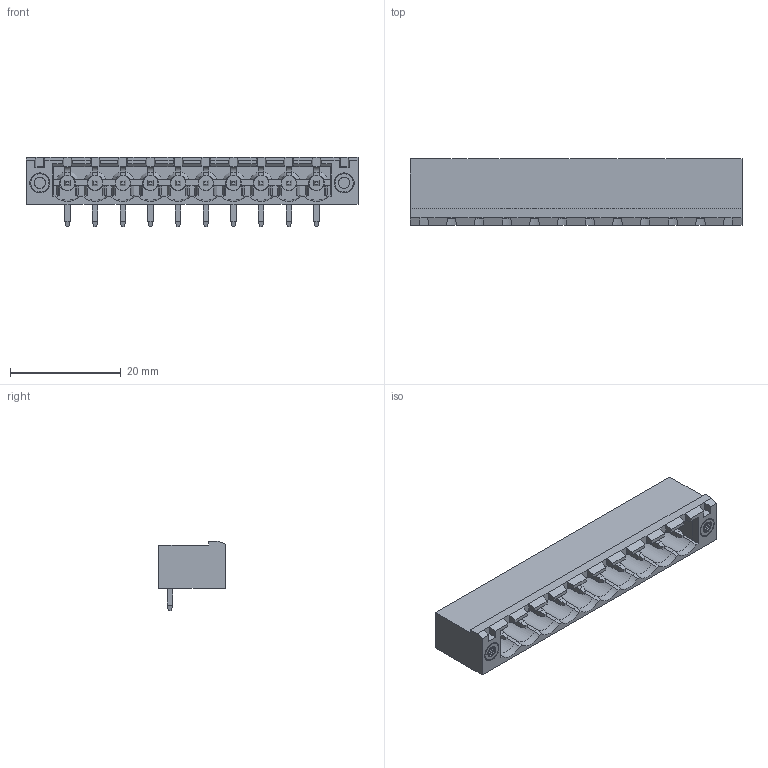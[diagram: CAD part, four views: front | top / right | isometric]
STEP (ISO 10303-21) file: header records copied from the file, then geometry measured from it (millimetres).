
FILE_DESCRIPTION(('Open CASCADE Model'),'2;1');
FILE_NAME('Open CASCADE Shape Model','2022-10-26T11:42:28',('Author'),( 'Open CASCADE'),'Open CASCADE STEP processor 6.5','Open CASCADE 6.5' ,'Unknown');
FILE_SCHEMA(('AUTOMOTIVE_DESIGN { 1 0 10303 214 1 1 1 1 }'));
Length unit declared in the file: millimetre
Products named in the file (1036): CADSOFTTOOLS 4; CADSOFTTOOLS 4.1; CADSOFTTOOLS 4.2; CADSOFTTOOLS 4.3; CADSOFTTOOLS 4.4; CADSOFTTOOLS 4.5; CADSOFTTOOLS 4.6; CADSOFTTOOLS 4.7; CADSOFTTOOLS 4.8; CADSOFTTOOLS 4.9; CADSOFTTOOLS 4.10; CADSOFTTOOLS 4.11; CADSOFTTOOLS 4.12; CADSOFTTOOLS 4.13; CADSOFTTOOLS 4.14; CADSOFTTOOLS 4.15; CADSOFTTOOLS 4.16; CADSOFTTOOLS 4.17; CADSOFTTOOLS 4.18; CADSOFTTOOLS 4.19; CADSOFTTOOLS 4.20; CADSOFTTOOLS 4.21; CADSOFTTOOLS 4.22; CADSOFTTOOLS 4.23; CADSOFTTOOLS 4.24; CADSOFTTOOLS 4.25; CADSOFTTOOLS 4.26; CADSOFTTOOLS 4.27; CADSOFTTOOLS 4.28; CADSOFTTOOLS 4.29; CADSOFTTOOLS 4.30; CADSOFTTOOLS 4.31; CADSOFTTOOLS 4.32; CADSOFTTOOLS 4.33; CADSOFTTOOLS 4.34; CADSOFTTOOLS 4.35; CADSOFTTOOLS 4.36; CADSOFTTOOLS 4.37; CADSOFTTOOLS 4.38; CADSOFTTOOLS 4.39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
Assembly tree (1035 placements, depth 2):
  CADSOFTTOOLS 4
    CADSOFTTOOLS 4.1
    CADSOFTTOOLS 4.2
    CADSOFTTOOLS 4.3
    CADSOFTTOOLS 4.4
    CADSOFTTOOLS 4.5
    CADSOFTTOOLS 4.6
    CADSOFTTOOLS 4.7
    CADSOFTTOOLS 4.8
    CADSOFTTOOLS 4.9
    CADSOFTTOOLS 4.10
    CADSOFTTOOLS 4.11
    CADSOFTTOOLS 4.12
    CADSOFTTOOLS 4.13
    CADSOFTTOOLS 4.14
    CADSOFTTOOLS 4.15
    CADSOFTTOOLS 4.16
    CADSOFTTOOLS 4.17
    CADSOFTTOOLS 4.18
    CADSOFTTOOLS 4.19
    CADSOFTTOOLS 4.20
    CADSOFTTOOLS 4.21
    CADSOFTTOOLS 4.22
    CADSOFTTOOLS 4.23
    CADSOFTTOOLS 4.24
    CADSOFTTOOLS 4.25
    CADSOFTTOOLS 4.26
    CADSOFTTOOLS 4.27
    CADSOFTTOOLS 4.28
    CADSOFTTOOLS 4.29
    CADSOFTTOOLS 4.30
    CADSOFTTOOLS 4.31
    CADSOFTTOOLS 4.32
    CADSOFTTOOLS 4.33
    CADSOFTTOOLS 4.34
    CADSOFTTOOLS 4.35
    CADSOFTTOOLS 4.36
    CADSOFTTOOLS 4.37
    CADSOFTTOOLS 4.38
    CADSOFTTOOLS 4.39
    CADSOFTTOOLS 4.40
    CADSOFTTOOLS 4.41
    CADSOFTTOOLS 4.42
    CADSOFTTOOLS 4.43
    CADSOFTTOOLS 4.44
    CADSOFTTOOLS 4.45
    CADSOFTTOOLS 4.46
    CADSOFTTOOLS 4.47
    CADSOFTTOOLS 4.48
    CADSOFTTOOLS 4.49
    CADSOFTTOOLS 4.50
    CADSOFTTOOLS 4.51
    CADSOFTTOOLS 4.52
    CADSOFTTOOLS 4.53
    CADSOFTTOOLS 4.54
    CADSOFTTOOLS 4.55
    CADSOFTTOOLS 4.56
    CADSOFTTOOLS 4.57
    CADSOFTTOOLS 4.58
    CADSOFTTOOLS 4.59
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Bounding box: 60 x 12 x 12.5 mm (x, y, z)
Surface area: 5217.2 mm2 (no closed solid volume)
Topology: 0 solids, 1035 shells, 1035 faces, 6162 edges, 6162 vertices
Faces by surface type: bspline 1035
Entity records: 220355 total; most frequent: CARTESIAN_POINT 148205, B_SPLINE_CURVE_WITH_KNOTS 11356, ORIENTED_EDGE 6162, EDGE_CURVE 6162, VERTEX_POINT 6162, SURFACE_CURVE 6162, PCURVE 6162, DEFINITIONAL_REPRESENTATION 6162
